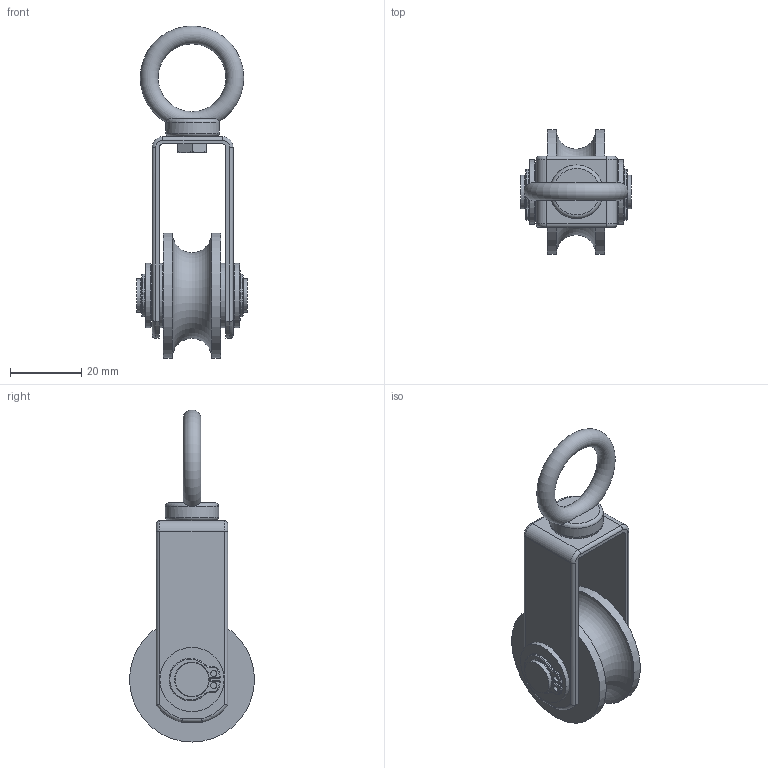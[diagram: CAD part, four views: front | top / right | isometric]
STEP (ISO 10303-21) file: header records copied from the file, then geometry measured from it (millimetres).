
FILE_DESCRIPTION(/* description */ (''),/* implementation_level */ '2;1');
FILE_NAME(/* name */ 'carrucola sospesa v3.step',/* time_stamp */ '2025-05-05T18:54:17+02:00',/* author */ (''),/* organization */ (''),/* preprocessor_version */ 'ST-DEVELOPER v20.1',/* originating_system */ 'Autodesk Translation Framework v14.4.0.0',/* authorisation */ '');
FILE_SCHEMA (('AUTOMOTIVE_DESIGN { 1 0 10303 214 3 1 1 }'));
Length unit declared in the file: millimetre
Products named in the file (4): carrucola sospesa; 90967A160_External Retaining Ring; 91287A081_18-8 Stainless Steel Hex Head Screw; 98689A117_General Purpose 18-8 Stainless Steel Washer
Assembly tree (7 placements, depth 2):
  carrucola sospesa
    98689A117_General Purpose 18-8 Stainless Steel Washer  x4
    90967A160_External Retaining Ring  x2
    91287A081_18-8 Stainless Steel Hex Head Screw
Bounding box: 31 x 35 x 92.99 mm (x, y, z)
Volume: 20114.5 mm3; surface area: 14926.5 mm2
Topology: 11 solids, 11 shells, 220 faces, 497 edges, 298 vertices
Faces by surface type: cylinder 95, torus 47, plane 46, bspline 22, cone 10
Full cylindrical faces by diameter (mm): 1.725 x4, 3.961 x5, 5 x7, 8.152 x2, 9.5 x5, 10 x1, 10.5 x4, 15 x1, 18 x4, 35 x2
Entity records: 6100 total; most frequent: CARTESIAN_POINT 2460, DIRECTION 782, ORIENTED_EDGE 716, EDGE_CURVE 358, AXIS2_PLACEMENT_3D 333, VERTEX_POINT 218, CIRCLE 177, EDGE_LOOP 174
